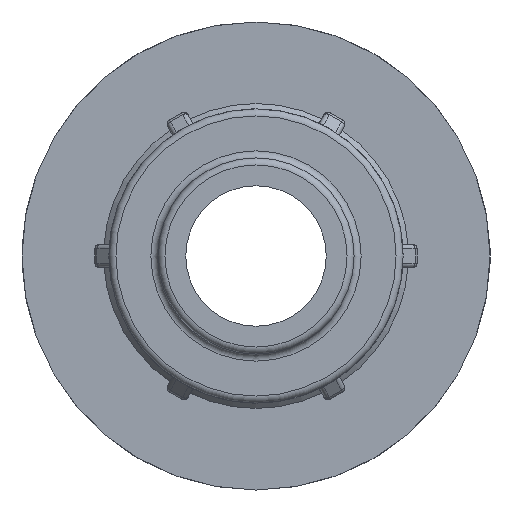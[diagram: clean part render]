
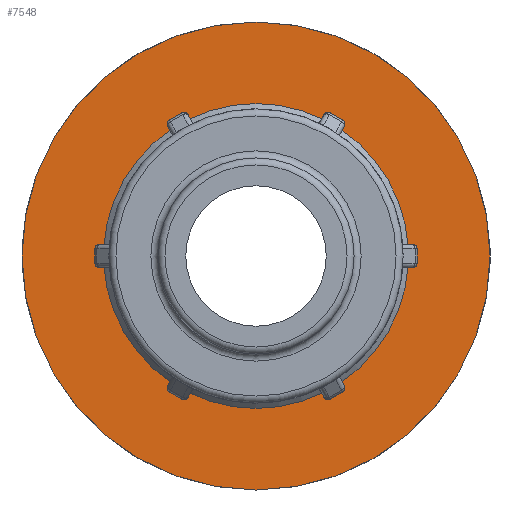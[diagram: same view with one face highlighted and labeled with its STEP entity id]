
A CAD part, left-side view. The second image highlights one B-rep face of the part: STEP entity #7548.
In plain terms, the highlighted planar face has unit normal (-1, 0, 0).
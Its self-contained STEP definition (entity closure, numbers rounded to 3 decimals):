
#26=FACE_BOUND('',#1424,.T.);
#113=ELLIPSE('',#7628,0.707,0.5);
#114=ELLIPSE('',#7649,0.707,0.5);
#117=ELLIPSE('',#7744,0.707,0.5);
#118=ELLIPSE('',#7765,0.707,0.5);
#121=ELLIPSE('',#7860,0.707,0.5);
#122=ELLIPSE('',#7881,0.707,0.5);
#125=ELLIPSE('',#7976,0.707,0.5);
#126=ELLIPSE('',#7997,0.707,0.5);
#129=ELLIPSE('',#8092,0.707,0.5);
#130=ELLIPSE('',#8113,0.707,0.5);
#134=ELLIPSE('',#8383,0.707,0.5);
#135=ELLIPSE('',#8404,0.707,0.5);
#288=PLANE('',#8471);
#943=FACE_OUTER_BOUND('',#1423,.T.);
#1423=EDGE_LOOP('',(#6832));
#1424=EDGE_LOOP('',(#6833,#6834,#6835,#6836,#6837,#6838,#6839,#6840,#6841,
#6842,#6843,#6844,#6845,#6846,#6847,#6848,#6849,#6850,#6851,#6852,#6853,
#6854,#6855,#6856));
#1476=LINE('',#11109,#1926);
#1535=LINE('',#11586,#1985);
#1594=LINE('',#12063,#2044);
#1653=LINE('',#12536,#2103);
#1712=LINE('',#13013,#2162);
#1859=LINE('',#14365,#2309);
#1926=VECTOR('',#8664,1.5);
#1985=VECTOR('',#8955,1.5);
#2044=VECTOR('',#9246,1.5);
#2103=VECTOR('',#9537,1.5);
#2162=VECTOR('',#9828,1.5);
#2309=VECTOR('',#10557,1.5);
#2755=CIRCLE('',#8309,16.289);
#2756=CIRCLE('',#8311,16.289);
#2757=CIRCLE('',#8313,16.289);
#2758=CIRCLE('',#8315,16.289);
#2759=CIRCLE('',#8317,16.289);
#2842=CIRCLE('',#8472,25.);
#2843=CIRCLE('',#8473,16.289);
#2907=VERTEX_POINT('',#11089);
#2908=VERTEX_POINT('',#11101);
#2910=VERTEX_POINT('',#11107);
#2923=VERTEX_POINT('',#11164);
#2996=VERTEX_POINT('',#11566);
#2997=VERTEX_POINT('',#11578);
#2999=VERTEX_POINT('',#11584);
#3012=VERTEX_POINT('',#11641);
#3085=VERTEX_POINT('',#12043);
#3086=VERTEX_POINT('',#12055);
#3088=VERTEX_POINT('',#12061);
#3101=VERTEX_POINT('',#12118);
#3174=VERTEX_POINT('',#12516);
#3175=VERTEX_POINT('',#12528);
#3177=VERTEX_POINT('',#12534);
#3190=VERTEX_POINT('',#12591);
#3263=VERTEX_POINT('',#12993);
#3264=VERTEX_POINT('',#13005);
#3266=VERTEX_POINT('',#13011);
#3279=VERTEX_POINT('',#13068);
#3435=VERTEX_POINT('',#14109);
#3482=VERTEX_POINT('',#14345);
#3483=VERTEX_POINT('',#14357);
#3485=VERTEX_POINT('',#14363);
#3521=VERTEX_POINT('',#14559);
#3611=EDGE_CURVE('',#2908,#2907,#113,.F.);
#3614=EDGE_CURVE('',#2908,#2910,#1476,.T.);
#3639=EDGE_CURVE('',#2910,#2923,#114,.T.);
#3753=EDGE_CURVE('',#2997,#2996,#117,.F.);
#3756=EDGE_CURVE('',#2997,#2999,#1535,.T.);
#3781=EDGE_CURVE('',#2999,#3012,#118,.T.);
#3895=EDGE_CURVE('',#3086,#3085,#121,.F.);
#3898=EDGE_CURVE('',#3086,#3088,#1594,.T.);
#3923=EDGE_CURVE('',#3088,#3101,#122,.T.);
#4037=EDGE_CURVE('',#3175,#3174,#125,.F.);
#4040=EDGE_CURVE('',#3175,#3177,#1653,.T.);
#4065=EDGE_CURVE('',#3177,#3190,#126,.T.);
#4179=EDGE_CURVE('',#3264,#3263,#129,.F.);
#4182=EDGE_CURVE('',#3264,#3266,#1712,.T.);
#4207=EDGE_CURVE('',#3266,#3279,#130,.T.);
#4483=EDGE_CURVE('',#3263,#3435,#2755,.F.);
#4486=EDGE_CURVE('',#3279,#3174,#2756,.T.);
#4487=EDGE_CURVE('',#3190,#3085,#2757,.T.);
#4488=EDGE_CURVE('',#3101,#2996,#2758,.T.);
#4489=EDGE_CURVE('',#3012,#2907,#2759,.T.);
#4567=EDGE_CURVE('',#3483,#3482,#134,.F.);
#4570=EDGE_CURVE('',#3483,#3485,#1859,.T.);
#4594=EDGE_CURVE('',#3485,#3435,#135,.T.);
#4644=EDGE_CURVE('',#3521,#3521,#2842,.T.);
#4645=EDGE_CURVE('',#2923,#3482,#2843,.T.);
#6832=ORIENTED_EDGE('',*,*,#4644,.F.);
#6833=ORIENTED_EDGE('',*,*,#4645,.T.);
#6834=ORIENTED_EDGE('',*,*,#4567,.F.);
#6835=ORIENTED_EDGE('',*,*,#4570,.T.);
#6836=ORIENTED_EDGE('',*,*,#4594,.T.);
#6837=ORIENTED_EDGE('',*,*,#4483,.F.);
#6838=ORIENTED_EDGE('',*,*,#4179,.F.);
#6839=ORIENTED_EDGE('',*,*,#4182,.T.);
#6840=ORIENTED_EDGE('',*,*,#4207,.T.);
#6841=ORIENTED_EDGE('',*,*,#4486,.T.);
#6842=ORIENTED_EDGE('',*,*,#4037,.F.);
#6843=ORIENTED_EDGE('',*,*,#4040,.T.);
#6844=ORIENTED_EDGE('',*,*,#4065,.T.);
#6845=ORIENTED_EDGE('',*,*,#4487,.T.);
#6846=ORIENTED_EDGE('',*,*,#3895,.F.);
#6847=ORIENTED_EDGE('',*,*,#3898,.T.);
#6848=ORIENTED_EDGE('',*,*,#3923,.T.);
#6849=ORIENTED_EDGE('',*,*,#4488,.T.);
#6850=ORIENTED_EDGE('',*,*,#3753,.F.);
#6851=ORIENTED_EDGE('',*,*,#3756,.T.);
#6852=ORIENTED_EDGE('',*,*,#3781,.T.);
#6853=ORIENTED_EDGE('',*,*,#4489,.T.);
#6854=ORIENTED_EDGE('',*,*,#3611,.F.);
#6855=ORIENTED_EDGE('',*,*,#3614,.T.);
#6856=ORIENTED_EDGE('',*,*,#3639,.T.);
#7548=ADVANCED_FACE('',(#943,#26),#288,.T.);
#7628=AXIS2_PLACEMENT_3D('',#11103,#8658,#8659);
#7649=AXIS2_PLACEMENT_3D('',#11165,#8720,#8721);
#7744=AXIS2_PLACEMENT_3D('',#11580,#8949,#8950);
#7765=AXIS2_PLACEMENT_3D('',#11642,#9011,#9012);
#7860=AXIS2_PLACEMENT_3D('',#12057,#9240,#9241);
#7881=AXIS2_PLACEMENT_3D('',#12119,#9302,#9303);
#7976=AXIS2_PLACEMENT_3D('',#12530,#9531,#9532);
#7997=AXIS2_PLACEMENT_3D('',#12592,#9593,#9594);
#8092=AXIS2_PLACEMENT_3D('',#13007,#9822,#9823);
#8113=AXIS2_PLACEMENT_3D('',#13069,#9884,#9885);
#8309=AXIS2_PLACEMENT_3D('',#14110,#10371,#10372);
#8311=AXIS2_PLACEMENT_3D('',#14126,#10375,#10376);
#8313=AXIS2_PLACEMENT_3D('',#14128,#10379,#10380);
#8315=AXIS2_PLACEMENT_3D('',#14130,#10383,#10384);
#8317=AXIS2_PLACEMENT_3D('',#14132,#10387,#10388);
#8383=AXIS2_PLACEMENT_3D('',#14359,#10551,#10552);
#8404=AXIS2_PLACEMENT_3D('',#14413,#10613,#10614);
#8471=AXIS2_PLACEMENT_3D('',#14558,#10762,#10763);
#8472=AXIS2_PLACEMENT_3D('',#14560,#10764,#10765);
#8473=AXIS2_PLACEMENT_3D('',#14561,#10766,#10767);
#8658=DIRECTION('center_axis',(1.,0.,0.));
#8659=DIRECTION('ref_axis',(0.,0.5,-0.866));
#8664=DIRECTION('',(0.,0.866,0.5));
#8720=DIRECTION('center_axis',(1.,0.,0.));
#8721=DIRECTION('ref_axis',(0.,0.5,-0.866));
#8949=DIRECTION('center_axis',(1.,0.,0.));
#8950=DIRECTION('ref_axis',(0.,-0.5,-0.866));
#8955=DIRECTION('',(0.,0.866,-0.5));
#9011=DIRECTION('center_axis',(1.,0.,0.));
#9012=DIRECTION('ref_axis',(0.,-0.5,-0.866));
#9240=DIRECTION('center_axis',(1.,0.,0.));
#9241=DIRECTION('ref_axis',(0.,-1.,0.));
#9246=DIRECTION('',(0.,0.,-1.));
#9302=DIRECTION('center_axis',(1.,0.,0.));
#9303=DIRECTION('ref_axis',(0.,-1.,0.));
#9531=DIRECTION('center_axis',(1.,0.,0.));
#9532=DIRECTION('ref_axis',(0.,-0.5,0.866));
#9537=DIRECTION('',(0.,-0.866,-0.5));
#9593=DIRECTION('center_axis',(1.,0.,0.));
#9594=DIRECTION('ref_axis',(0.,-0.5,0.866));
#9822=DIRECTION('center_axis',(1.,0.,0.));
#9823=DIRECTION('ref_axis',(0.,0.5,0.866));
#9828=DIRECTION('',(0.,-0.866,0.5));
#9884=DIRECTION('center_axis',(1.,0.,0.));
#9885=DIRECTION('ref_axis',(0.,0.5,0.866));
#10371=DIRECTION('center_axis',(1.,0.,0.));
#10372=DIRECTION('ref_axis',(0.,1.,0.));
#10375=DIRECTION('center_axis',(1.,0.,0.));
#10376=DIRECTION('ref_axis',(0.,1.,0.));
#10379=DIRECTION('center_axis',(1.,0.,0.));
#10380=DIRECTION('ref_axis',(0.,1.,0.));
#10383=DIRECTION('center_axis',(1.,0.,0.));
#10384=DIRECTION('ref_axis',(0.,1.,0.));
#10387=DIRECTION('center_axis',(1.,0.,0.));
#10388=DIRECTION('ref_axis',(0.,1.,0.));
#10551=DIRECTION('center_axis',(1.,0.,0.));
#10552=DIRECTION('ref_axis',(0.,1.,0.));
#10557=DIRECTION('',(0.,0.,1.));
#10613=DIRECTION('center_axis',(1.,0.,0.));
#10614=DIRECTION('ref_axis',(0.,1.,0.));
#10762=DIRECTION('center_axis',(-1.,0.,0.));
#10763=DIRECTION('ref_axis',(0.,0.,1.));
#10764=DIRECTION('center_axis',(1.,0.,0.));
#10765=DIRECTION('ref_axis',(0.,0.,-1.));
#10766=DIRECTION('center_axis',(1.,0.,0.));
#10767=DIRECTION('ref_axis',(0.,1.,0.));
#11089=CARTESIAN_POINT('',(19.81,7.372,-14.525));
#11101=CARTESIAN_POINT('',(19.81,7.495,-14.481));
#11103=CARTESIAN_POINT('Origin',(19.81,7.141,-13.869));
#11107=CARTESIAN_POINT('',(19.81,8.794,-13.731));
#11109=CARTESIAN_POINT('',(19.81,17.519,-8.694));
#11164=CARTESIAN_POINT('',(19.81,8.893,-13.647));
#11165=CARTESIAN_POINT('Origin',(19.81,8.44,-13.119));
#11566=CARTESIAN_POINT('',(19.81,-8.893,-13.647));
#11578=CARTESIAN_POINT('',(19.81,-8.794,-13.731));
#11580=CARTESIAN_POINT('Origin',(19.81,-8.44,-13.119));
#11584=CARTESIAN_POINT('',(19.81,-7.495,-14.481));
#11586=CARTESIAN_POINT('',(19.81,1.231,-19.519));
#11641=CARTESIAN_POINT('',(19.81,-7.372,-14.525));
#11642=CARTESIAN_POINT('Origin',(19.81,-7.141,-13.869));
#12043=CARTESIAN_POINT('',(19.81,-16.265,0.878));
#12055=CARTESIAN_POINT('',(19.81,-16.289,0.75));
#12057=CARTESIAN_POINT('Origin',(19.81,-15.581,0.75));
#12061=CARTESIAN_POINT('',(19.81,-16.289,-0.75));
#12063=CARTESIAN_POINT('',(19.81,-16.289,0.));
#12118=CARTESIAN_POINT('',(19.81,-16.265,-0.878));
#12119=CARTESIAN_POINT('Origin',(19.81,-15.581,-0.75));
#12516=CARTESIAN_POINT('',(19.81,-7.372,14.525));
#12528=CARTESIAN_POINT('',(19.81,-7.495,14.481));
#12530=CARTESIAN_POINT('Origin',(19.81,-7.141,13.869));
#12534=CARTESIAN_POINT('',(19.81,-8.794,13.731));
#12536=CARTESIAN_POINT('',(19.81,1.231,19.519));
#12591=CARTESIAN_POINT('',(19.81,-8.893,13.647));
#12592=CARTESIAN_POINT('Origin',(19.81,-8.44,13.119));
#12993=CARTESIAN_POINT('',(19.81,8.893,13.647));
#13005=CARTESIAN_POINT('',(19.81,8.794,13.731));
#13007=CARTESIAN_POINT('Origin',(19.81,8.44,13.119));
#13011=CARTESIAN_POINT('',(19.81,7.495,14.481));
#13013=CARTESIAN_POINT('',(19.81,17.519,8.694));
#13068=CARTESIAN_POINT('',(19.81,7.372,14.525));
#13069=CARTESIAN_POINT('Origin',(19.81,7.141,13.869));
#14109=CARTESIAN_POINT('',(19.81,16.265,0.878));
#14110=CARTESIAN_POINT('Origin',(19.81,0.,0.));
#14126=CARTESIAN_POINT('Origin',(19.81,0.,0.));
#14128=CARTESIAN_POINT('Origin',(19.81,0.,0.));
#14130=CARTESIAN_POINT('Origin',(19.81,0.,0.));
#14132=CARTESIAN_POINT('Origin',(19.81,0.,0.));
#14345=CARTESIAN_POINT('',(19.81,16.265,-0.878));
#14357=CARTESIAN_POINT('',(19.81,16.289,-0.75));
#14359=CARTESIAN_POINT('Origin',(19.81,15.581,-0.75));
#14363=CARTESIAN_POINT('',(19.81,16.289,0.75));
#14365=CARTESIAN_POINT('',(19.81,16.289,0.));
#14413=CARTESIAN_POINT('Origin',(19.81,15.581,0.75));
#14558=CARTESIAN_POINT('Origin',(19.81,25.,0.));
#14559=CARTESIAN_POINT('',(19.81,25.,0.));
#14560=CARTESIAN_POINT('Origin',(19.81,0.,0.));
#14561=CARTESIAN_POINT('Origin',(19.81,0.,0.));
